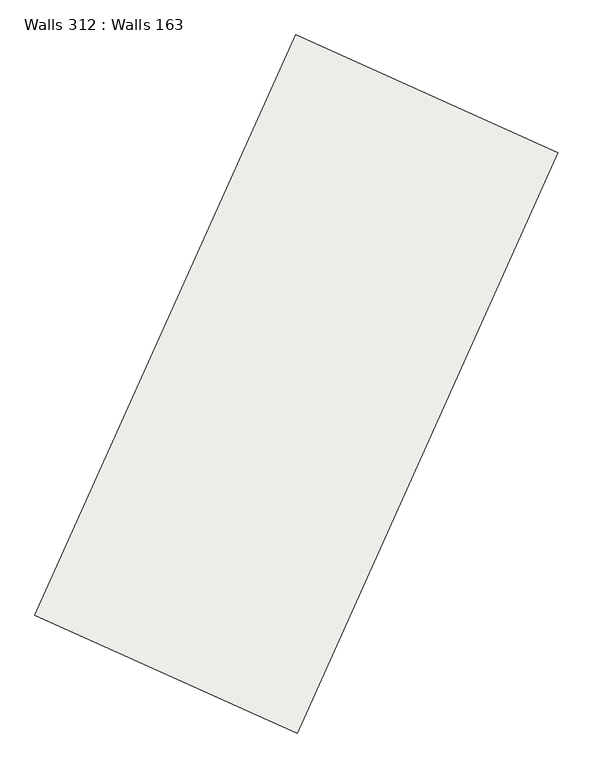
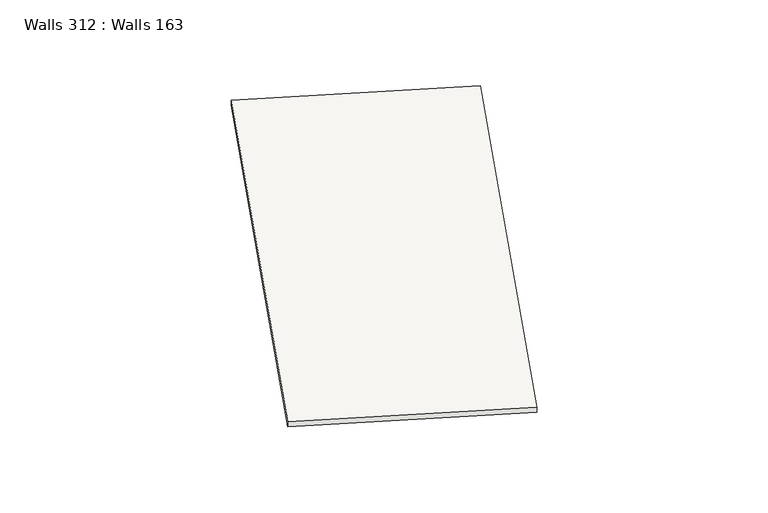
"""IFC4 building model written with IfcOpenShell, lengths in millimetres: slab geometry, Walls 312 : Walls 163."""

from ifc_helpers import new_model, si_unit, frame, origin, place, context, project, spatial, polyline, outline, extrude, source, transform, mapped, element, save


def walls_312_walls_163_4e30ba1b(model_context):
    return source(origin(), model_context, "Body", "SweptSolid", [
        extrude(outline(polyline([(-50.0, 0.0), (50.0, 0.0), (-60.0, -9299.9999996), (-160.0, -9299.9999996), (-50.0, 0.0)])), frame((199242.3771846, 78662.100717, 641380.0), z_axis=(-0.9122727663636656, 0.4095832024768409, 0.0), x_axis=(0.0, 0.0, 1.0)), (0.0, 0.0, 1.0), 4200.0),
    ])


if __name__ == "__main__":
    model = new_model("IFC4")
    model_context = context("Model", 3, world=origin())
    ifc_project = project(units=[si_unit("LENGTHUNIT", "METRE", prefix="MILLI")], contexts=[model_context])
    site = spatial("IfcSite", under=ifc_project)
    building = spatial("IfcBuilding", under=site)
    placement = place(None, origin())
    walls_312_walls_163_shape = walls_312_walls_163_4e30ba1b(model_context)
    element("IfcSlab", 1, ObjectType="Walls 312 : Walls 163", at=placement, inside=building, context=model_context, shape_type="MappedRepresentation", body=[
        mapped(walls_312_walls_163_shape, transform((0.0, 0.0, 0.0), x_axis=(1.0, 0.0, 0.0), y_axis=(0.0, 1.0, 0.0), z_axis=(0.0, 0.0, 1.0))),
    ])
    save(model, "model.ifc")
